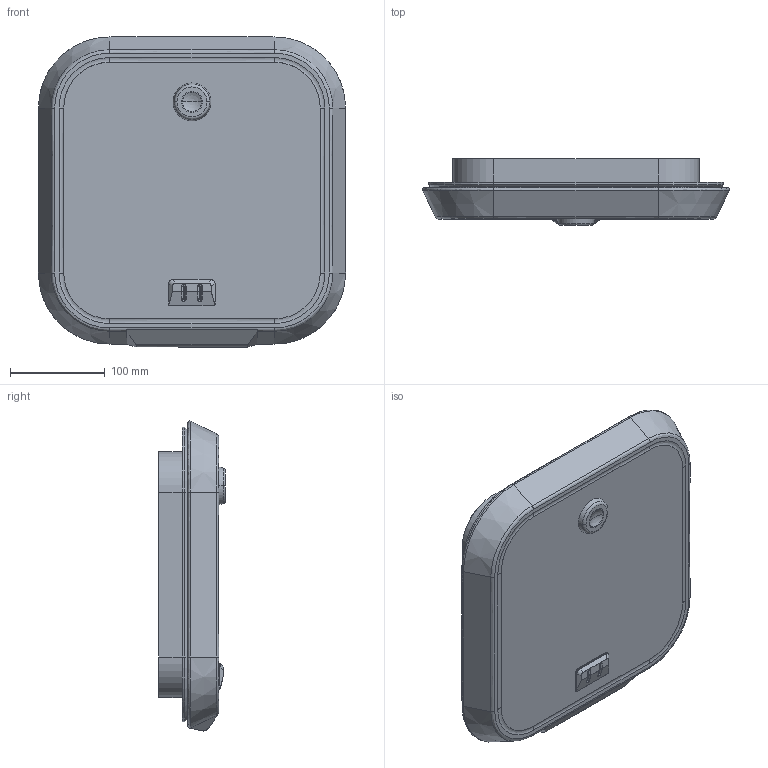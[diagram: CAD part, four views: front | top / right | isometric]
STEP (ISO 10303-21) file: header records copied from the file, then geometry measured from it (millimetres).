
FILE_DESCRIPTION((''),'2;1');
FILE_NAME('LEWMAR_HATCH_OCEAN_10_FLANGE_ASM','2008-02-21T',('skennedy'),(''),'PRO/ENGINEER BY PARAMETRIC TECHNOLOGY CORPORATION, 2007030','PRO/ENGINEER BY PARAMETRIC TECHNOLOGY CORPORATION, 2007030','');
FILE_SCHEMA(('CONFIG_CONTROL_DESIGN'));
Length unit declared in the file: millimetre
Products named in the file (5): OCEAN_ACRYLIC_10; OCEAN_SMALL_HANDLE; OCEAN_SMALL_HINGE_LEVER_1; FRAME_10_FLANGE; LEWMAR_HATCH_OCEAN_10_FLANGE_ASM
Assembly tree (4 placements, depth 2):
  LEWMAR_HATCH_OCEAN_10_FLANGE_ASM
    OCEAN_ACRYLIC_10
    OCEAN_SMALL_HANDLE
    OCEAN_SMALL_HINGE_LEVER_1
    FRAME_10_FLANGE
Bounding box: 323.98 x 70.5 x 327.06 mm (x, y, z)
Volume: 904341.9 mm3; surface area: 425201.1 mm2
Topology: 5 solids, 6 shells, 489 faces, 1160 edges, 707 vertices
Faces by surface type: plane 157, cylinder 141, bspline 127, cone 26, torus 20, sphere 16, extrusion 2
Entity records: 19043 total; most frequent: CARTESIAN_POINT 8133, ORIENTED_EDGE 2316, DIRECTION 2132, EDGE_CURVE 1158, AXIS2_PLACEMENT_3D 796, VERTEX_POINT 707, VECTOR 540, LINE 538
